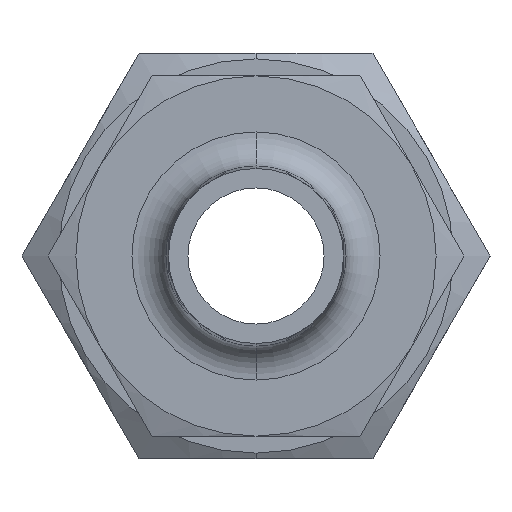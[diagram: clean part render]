
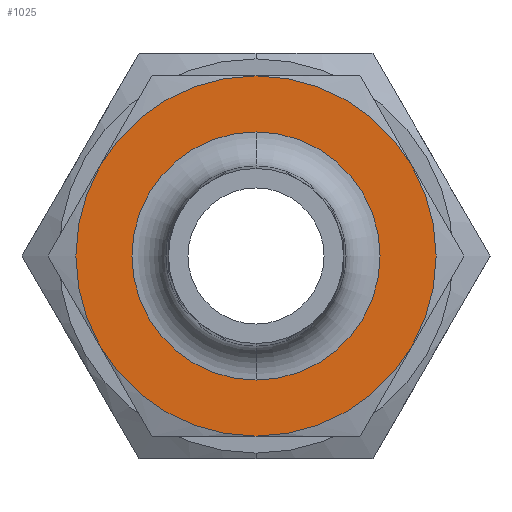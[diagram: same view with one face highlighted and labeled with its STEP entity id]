
A CAD part, left-side view. The second image highlights one B-rep face of the part: STEP entity #1025.
In plain terms, the highlighted planar face has unit normal (-1, 0, 0).
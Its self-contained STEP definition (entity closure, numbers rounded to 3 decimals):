
#184 = CARTESIAN_POINT ( 'NONE',  ( 0., 0., 6.35 ) ) ;
#227 = DIRECTION ( 'NONE',  ( 0., 0., -1. ) ) ;
#228 = DIRECTION ( 'NONE',  ( 1., 0., 0. ) ) ;
#229 = CARTESIAN_POINT ( 'NONE',  ( 0., 0., 0. ) ) ;
#230 = AXIS2_PLACEMENT_3D ( 'NONE', #229, #228, #227 ) ;
#231 = CIRCLE ( 'NONE', #230, 6.35 ) ;
#232 = DIRECTION ( 'NONE',  ( 0., 0., -1. ) ) ;
#233 = DIRECTION ( 'NONE',  ( 1., 0., 0. ) ) ;
#234 = AXIS2_PLACEMENT_3D ( 'NONE', #290, #233, #232 ) ;
#235 = CIRCLE ( 'NONE', #234, 6.35 ) ;
#281 = DIRECTION ( 'NONE',  ( 0., 0., -1. ) ) ;
#282 = DIRECTION ( 'NONE',  ( 1., 0., 0. ) ) ;
#283 = CARTESIAN_POINT ( 'NONE',  ( 0., 0., 0. ) ) ;
#284 = AXIS2_PLACEMENT_3D ( 'NONE', #283, #282, #281 ) ;
#285 = CIRCLE ( 'NONE', #284, 6.35 ) ;
#286 = DIRECTION ( 'NONE',  ( 0., 0., 1. ) ) ;
#287 = DIRECTION ( 'NONE',  ( -1., 0., 0. ) ) ;
#288 = CARTESIAN_POINT ( 'NONE',  ( 0., 0., 0. ) ) ;
#289 = AXIS2_PLACEMENT_3D ( 'NONE', #288, #287, #286 ) ;
#290 = CARTESIAN_POINT ( 'NONE',  ( 0., 0., 0. ) ) ;
#304 = CIRCLE ( 'NONE', #289, 6.35 ) ;
#305 = DIRECTION ( 'NONE',  ( 0., 0., -1. ) ) ;
#306 = DIRECTION ( 'NONE',  ( 1., 0., 0. ) ) ;
#307 = CARTESIAN_POINT ( 'NONE',  ( 0., 0., 0. ) ) ;
#308 = AXIS2_PLACEMENT_3D ( 'NONE', #307, #306, #305 ) ;
#309 = CIRCLE ( 'NONE', #308, 6.35 ) ;
#310 = DIRECTION ( 'NONE',  ( 0., 0., -1. ) ) ;
#311 = DIRECTION ( 'NONE',  ( 1., 0., 0. ) ) ;
#312 = CARTESIAN_POINT ( 'NONE',  ( 0., 0., 0. ) ) ;
#313 = AXIS2_PLACEMENT_3D ( 'NONE', #312, #311, #310 ) ;
#314 = CIRCLE ( 'NONE', #313, 6.35 ) ;
#858 = CARTESIAN_POINT ( 'NONE',  ( 0., -5.499, 3.175 ) ) ;
#1012 = VERTEX_POINT ( 'NONE', #1732 ) ;
#1025 = ADVANCED_FACE ( 'NONE', ( #1683, #1682 ), #1685, .F. ) ;
#1026 = EDGE_LOOP ( 'NONE', ( #1027, #1272 ) ) ;
#1027 = ORIENTED_EDGE ( 'NONE', *, *, #1028, .T. ) ;
#1028 = EDGE_CURVE ( 'NONE', #1051, #1050, #1674, .T. ) ;
#1029 = VERTEX_POINT ( 'NONE', #1666 ) ;
#1041 = VERTEX_POINT ( 'NONE', #1616 ) ;
#1049 = EDGE_CURVE ( 'NONE', #1050, #1051, #1753, .T. ) ;
#1050 = VERTEX_POINT ( 'NONE', #1744 ) ;
#1051 = VERTEX_POINT ( 'NONE', #1743 ) ;
#1087 = VERTEX_POINT ( 'NONE', #1771 ) ;
#1127 = VERTEX_POINT ( 'NONE', #858 ) ;
#1272 = ORIENTED_EDGE ( 'NONE', *, *, #1049, .T. ) ;
#1281 = VERTEX_POINT ( 'NONE', #184 ) ;
#1330 = ORIENTED_EDGE ( 'NONE', *, *, #1331, .F. ) ;
#1331 = EDGE_CURVE ( 'NONE', #1041, #1012, #235, .T. ) ;
#1332 = ORIENTED_EDGE ( 'NONE', *, *, #1333, .F. ) ;
#1333 = EDGE_CURVE ( 'NONE', #1087, #1041, #231, .T. ) ;
#1334 = ORIENTED_EDGE ( 'NONE', *, *, #1335, .F. ) ;
#1335 = EDGE_CURVE ( 'NONE', #1127, #1087, #314, .T. ) ;
#1336 = ORIENTED_EDGE ( 'NONE', *, *, #1337, .F. ) ;
#1337 = EDGE_CURVE ( 'NONE', #1281, #1127, #309, .T. ) ;
#1338 = ORIENTED_EDGE ( 'NONE', *, *, #1339, .T. ) ;
#1339 = EDGE_CURVE ( 'NONE', #1281, #1029, #304, .T. ) ;
#1340 = ORIENTED_EDGE ( 'NONE', *, *, #1341, .F. ) ;
#1341 = EDGE_CURVE ( 'NONE', #1012, #1029, #285, .T. ) ;
#1556 = EDGE_LOOP ( 'NONE', ( #1330, #1332, #1334, #1336, #1338, #1340 ) ) ;
#1616 = CARTESIAN_POINT ( 'NONE',  ( 0., 0., -6.35 ) ) ;
#1666 = CARTESIAN_POINT ( 'NONE',  ( 0., 5.499, 3.175 ) ) ;
#1667 = DIRECTION ( 'NONE',  ( 0., 0., -1. ) ) ;
#1668 = DIRECTION ( 'NONE',  ( 1., 0., 0. ) ) ;
#1669 = CARTESIAN_POINT ( 'NONE',  ( 0., 0., 0. ) ) ;
#1670 = AXIS2_PLACEMENT_3D ( 'NONE', #1669, #1668, #1667 ) ;
#1671 = DIRECTION ( 'NONE',  ( 0., 0., -1. ) ) ;
#1672 = DIRECTION ( 'NONE',  ( 1., 0., 0. ) ) ;
#1673 = CARTESIAN_POINT ( 'NONE',  ( 0., 7.332, 0. ) ) ;
#1674 = CIRCLE ( 'NONE', #1670, 4.375 ) ;
#1681 = AXIS2_PLACEMENT_3D ( 'NONE', #1673, #1672, #1671 ) ;
#1682 = FACE_OUTER_BOUND ( 'NONE', #1556, .T. ) ;
#1683 = FACE_BOUND ( 'NONE', #1026, .T. ) ;
#1685 = PLANE ( 'NONE',  #1681 ) ;
#1732 = CARTESIAN_POINT ( 'NONE',  ( 0., 5.499, -3.175 ) ) ;
#1743 = CARTESIAN_POINT ( 'NONE',  ( 0., 0., -4.375 ) ) ;
#1744 = CARTESIAN_POINT ( 'NONE',  ( 0., 0., 4.375 ) ) ;
#1745 = DIRECTION ( 'NONE',  ( 0., 0., -1. ) ) ;
#1746 = DIRECTION ( 'NONE',  ( 1., 0., 0. ) ) ;
#1747 = CARTESIAN_POINT ( 'NONE',  ( 0., 0., 0. ) ) ;
#1748 = AXIS2_PLACEMENT_3D ( 'NONE', #1747, #1746, #1745 ) ;
#1753 = CIRCLE ( 'NONE', #1748, 4.375 ) ;
#1771 = CARTESIAN_POINT ( 'NONE',  ( 0., -5.499, -3.175 ) ) ;
